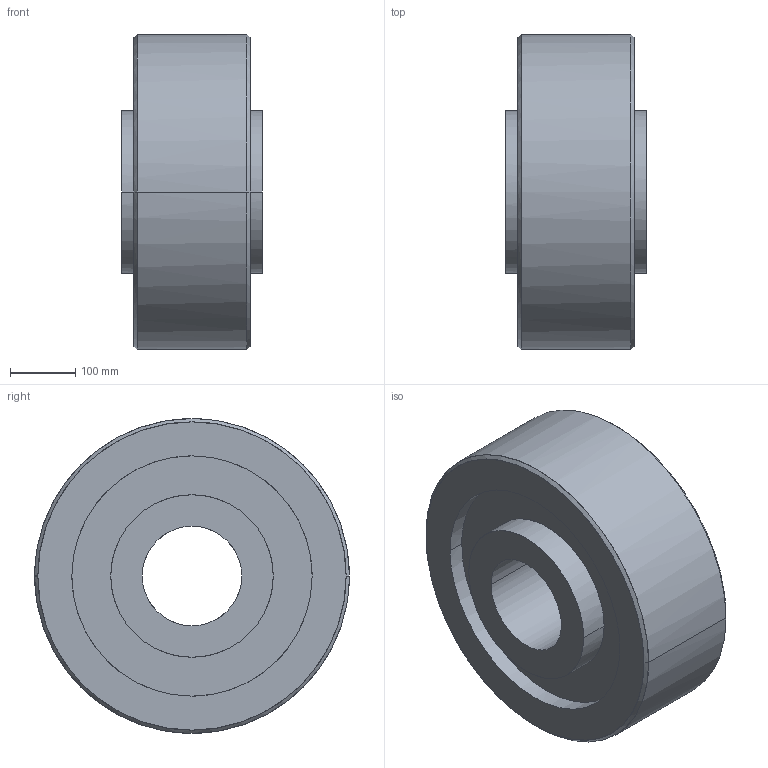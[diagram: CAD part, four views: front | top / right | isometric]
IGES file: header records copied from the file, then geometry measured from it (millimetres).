
Global section: native system: Kubotek KeyCreator; preprocessor: KCM Version 1.1.1442.0; author: KeyCreator User; organization: Self; date: 20170712.075844; units: inch
Bounding box: 215.9 x 482.6 x 482.6 mm (x, y, z)
Surface area: 821869.4 mm2 (no closed solid volume)
Topology: 0 solids, 0 shells, 22 faces, 144 edges, 144 vertices
Faces by surface type: bspline 22
